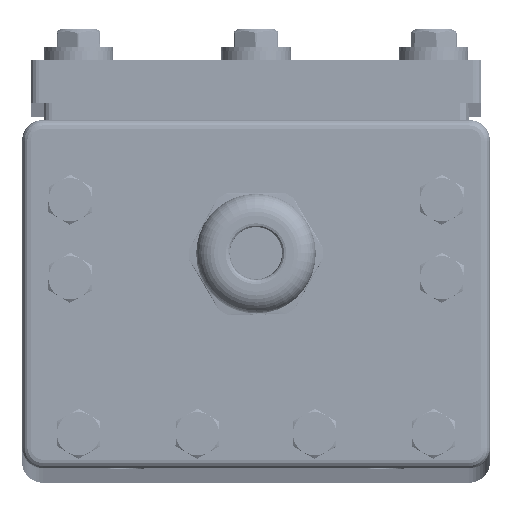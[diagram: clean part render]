
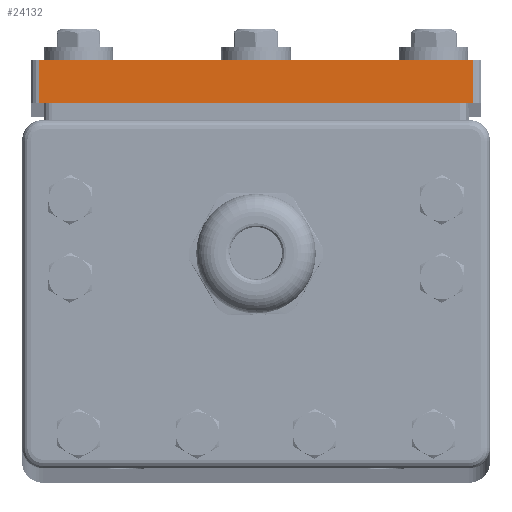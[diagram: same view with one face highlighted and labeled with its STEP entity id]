
A CAD part, top view. The second image highlights one B-rep face of the part: STEP entity #24132.
In plain terms, the highlighted planar face has unit normal (0, 0, 1).
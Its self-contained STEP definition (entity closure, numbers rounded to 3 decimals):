
#629 = VECTOR ( 'NONE', #23706, 1000. ) ;
#4978 = ORIENTED_EDGE ( 'NONE', *, *, #26845, .T. ) ;
#5191 = CARTESIAN_POINT ( 'NONE',  ( 2., 47.199, 929.75 ) ) ;
#5883 = DIRECTION ( 'NONE',  ( -1., 0., 0. ) ) ;
#5990 = ORIENTED_EDGE ( 'NONE', *, *, #15875, .T. ) ;
#6260 = CARTESIAN_POINT ( 'NONE',  ( 0., 0., 929.75 ) ) ;
#6770 = AXIS2_PLACEMENT_3D ( 'NONE', #6260, #23669, #5883 ) ;
#6828 = CARTESIAN_POINT ( 'NONE',  ( 2., 42.199, 929.75 ) ) ;
#8597 = PLANE ( 'NONE',  #6770 ) ;
#12477 = VERTEX_POINT ( 'NONE', #5191 ) ;
#12545 = CARTESIAN_POINT ( 'NONE',  ( 2., 42.199, 929.75 ) ) ;
#14009 = VERTEX_POINT ( 'NONE', #20436 ) ;
#14181 = VECTOR ( 'NONE', #33439, 1000. ) ;
#15875 = EDGE_CURVE ( 'NONE', #20617, #14009, #29622, .T. ) ;
#16045 = CARTESIAN_POINT ( 'NONE',  ( 52., 42.199, 929.75 ) ) ;
#18583 = VECTOR ( 'NONE', #38082, 1000. ) ;
#20436 = CARTESIAN_POINT ( 'NONE',  ( 52., 47.199, 929.75 ) ) ;
#20617 = VERTEX_POINT ( 'NONE', #16045 ) ;
#20757 = ORIENTED_EDGE ( 'NONE', *, *, #34071, .T. ) ;
#23560 = LINE ( 'NONE', #35795, #14181 ) ;
#23669 = DIRECTION ( 'NONE',  ( 0., 0., -1. ) ) ;
#23706 = DIRECTION ( 'NONE',  ( 0., 1., 0. ) ) ;
#24132 = ADVANCED_FACE ( 'NONE', ( #32953 ), #8597, .F. ) ;
#26237 = LINE ( 'NONE', #31768, #18583 ) ;
#26845 = EDGE_CURVE ( 'NONE', #27687, #20617, #23560, .T. ) ;
#27388 = LINE ( 'NONE', #6828, #29968 ) ;
#27687 = VERTEX_POINT ( 'NONE', #12545 ) ;
#29622 = LINE ( 'NONE', #33197, #629 ) ;
#29968 = VECTOR ( 'NONE', #33742, 1000. ) ;
#31768 = CARTESIAN_POINT ( 'NONE',  ( 1., 47.199, 929.75 ) ) ;
#32953 = FACE_OUTER_BOUND ( 'NONE', #37261, .T. ) ;
#33197 = CARTESIAN_POINT ( 'NONE',  ( 52., 47.199, 929.75 ) ) ;
#33439 = DIRECTION ( 'NONE',  ( 1., 0., 0. ) ) ;
#33742 = DIRECTION ( 'NONE',  ( 0., -1., 0. ) ) ;
#34071 = EDGE_CURVE ( 'NONE', #14009, #12477, #26237, .T. ) ;
#34454 = ORIENTED_EDGE ( 'NONE', *, *, #34675, .T. ) ;
#34675 = EDGE_CURVE ( 'NONE', #12477, #27687, #27388, .T. ) ;
#35795 = CARTESIAN_POINT ( 'NONE',  ( 1., 42.199, 929.75 ) ) ;
#37261 = EDGE_LOOP ( 'NONE', ( #4978, #5990, #20757, #34454 ) ) ;
#38082 = DIRECTION ( 'NONE',  ( -1., 0., 0. ) ) ;
